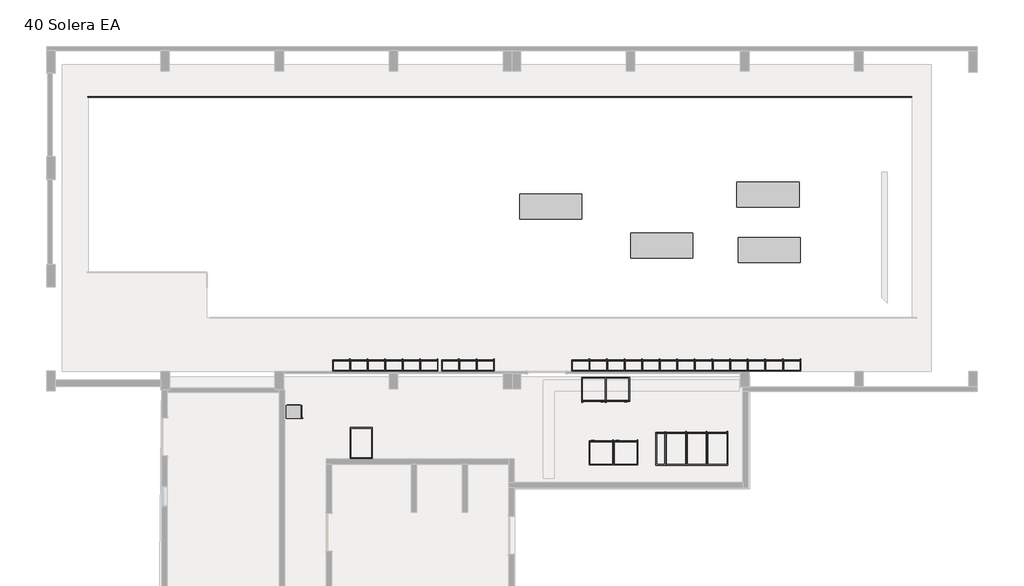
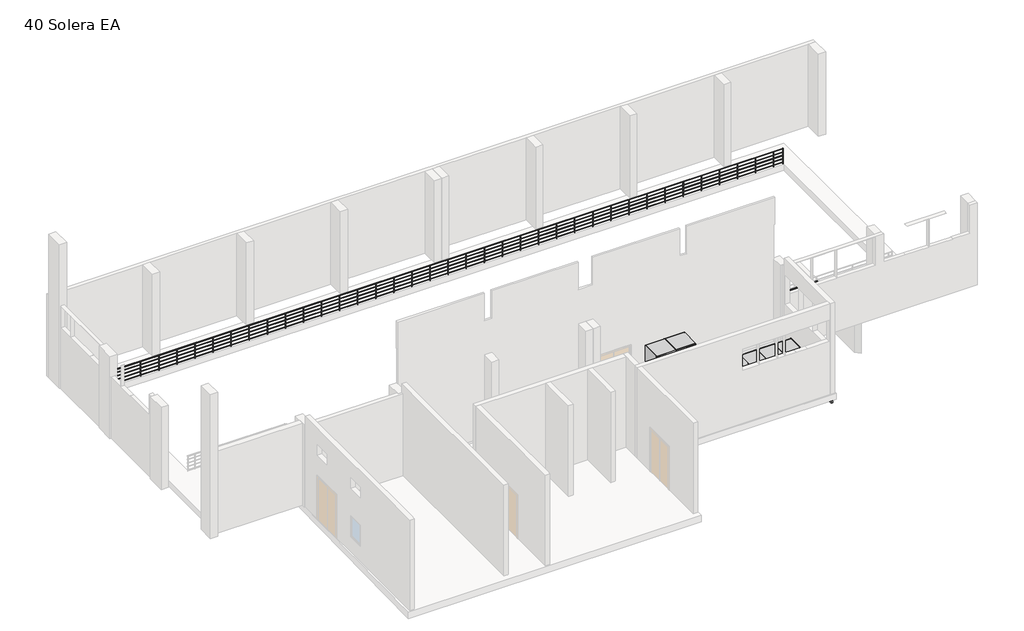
# One storey, part 3 of 3: 32 furniture elements, 5 cable carrier segments, 4 proxies, 1 railing.
"""IFC4 building model written with IfcOpenShell, lengths in millimetres."""

from ifc_helpers import new_model, si_unit, point, frame, frame_2d, origin, place, context, project, spatial, polyline, circle_curve, trimmed, segment, composite_curve, outline, extrude, faceted_brep, transform, mapped, element, save
from components import c250_motor_c250_motor_a78cca54, furniture_9596634d, furniture_800_x_450_x_2200_c90feb4c, furniture_800_x_450_x_2200_3f44f85e, furniture_800_x_450_x_2200_7879c233, furniture_800_x_450_x_2200_920462bc, furniture_800_x_450_x_2200_895e6954

model = new_model("IFC4")

# Units and contexts
model_context = context("Model", 3, world=origin())
ifc_project = project(units=[si_unit("LENGTHUNIT", "METRE", prefix="MILLI")], contexts=[model_context])

# Site, building, storey
site = spatial("IfcSite", under=ifc_project)
building = spatial("IfcBuilding", under=site)
storey = spatial("IfcBuildingStorey", under=building, Name="40 Solera EA", Elevation=-1800.0)

# Proxies
placement = place(None, origin())
c250_motor_c250_motor_shape = c250_motor_c250_motor_a78cca54(model_context)
element("IfcBuildingElementProxy", 1, Name="c250-motor : c250-motor", ObjectType="c250-motor : c250-motor", at=placement, inside=storey, context=model_context, shape_type="MappedRepresentation", body=[
    mapped(c250_motor_c250_motor_shape, transform((13629.9764081, 6765.8505422, 100.0), x_axis=(1.0, 0.0, 0.0), y_axis=(0.0, 1.0, 0.0), z_axis=(0.0, 0.0, 1.0))),
])
element("IfcBuildingElementProxy", 2, Name="c250-motor : c250-motor", ObjectType="c250-motor : c250-motor", at=placement, inside=storey, context=model_context, shape_type="MappedRepresentation", body=[
    mapped(c250_motor_c250_motor_shape, transform((13579.1365175, 9302.4243791, 100.0), x_axis=(1.0, 0.0, 0.0), y_axis=(0.0, 1.0, 0.0), z_axis=(0.0, 0.0, 1.0))),
])
element("IfcBuildingElementProxy", 3, Name="c250-motor : c250-motor", ObjectType="c250-motor : c250-motor", at=placement, inside=storey, context=model_context, shape_type="MappedRepresentation", body=[
    mapped(c250_motor_c250_motor_shape, transform((8742.1201345, 6973.4120119, 105.0), x_axis=(1.0, 0.0, 0.0), y_axis=(0.0, 1.0, 0.0), z_axis=(0.0, 0.0, 1.0))),
])
element("IfcBuildingElementProxy", 4, Name="c250-motor : c250-motor", ObjectType="c250-motor : c250-motor", at=placement, inside=storey, context=model_context, shape_type="MappedRepresentation", body=[
    mapped(c250_motor_c250_motor_shape, transform((3693.7049279, 8742.9820469, 105.0), x_axis=(1.0, 0.0, 0.0), y_axis=(0.0, 1.0, 0.0), z_axis=(0.0, 0.0, 1.0))),
])

# Cable carrier segments
element("IfcCableCarrierSegment", 5, ObjectType="Bandeja de cables de canal", at=placement, inside=storey, context=model_context, shape_type="Brep", body=[
    faceted_brep([(15654.3639889, 1343.0546627, -6700.0), (15655.6805292, 1343.0546627, -2781.7777346), (15555.6831632, 1343.7812393, -2781.7777346), (15554.3666228, 1343.7812393, -6700.0), (15558.9527582, 1793.7693611, -2781.7777346), (15557.6362178, 1793.7693611, -6700.0), (15658.9501242, 1793.0427845, -2781.7777346), (15657.6335838, 1793.0427845, -6700.0)], [[[0, 1, 2, 3]], [[3, 2, 4, 5]], [[5, 4, 6, 7]], [[7, 6, 1, 0]], [[0, 3, 5, 7]], [[1, 6, 4, 2]]]),
])
element("IfcCableCarrierSegment", 6, ObjectType="Bandeja de cables de canal", at=placement, inside=storey, context=model_context, shape_type="SweptSolid", body=[
    extrude(outline(polyline([(3091.0879722, 1793.0427845), (3087.8183776, 1343.0546627), (2987.8210172, 1343.7812393), (2991.0906118, 1793.7693611), (3091.0879722, 1793.0427845)])), frame((0.0, 0.0, -6531.7777346), z_axis=(0.0, 0.0, 1.0), x_axis=(1.0, 0.0, 0.0)), (0.0, 0.0, 1.0), 3490.0),
])
element("IfcCableCarrierSegment", 7, ObjectType="Bandeja de cables de canal", at=placement, inside=storey, context=model_context, shape_type="SweptSolid", body=[
    extrude(outline(polyline([(3091.0879722, 1793.0427845), (3087.8183776, 1343.0546627), (2987.8210172, 1343.7812393), (2991.0906118, 1793.7693611), (3091.0879722, 1793.0427845)])), frame((0.0, 0.0, -2941.7777346), z_axis=(0.0, 0.0, 1.0), x_axis=(1.0, 0.0, 0.0)), (0.0, 0.0, 1.0), 160.0),
])
element("IfcCableCarrierSegment", 8, ObjectType="Bandeja de cables de canal", at=placement, inside=storey, context=model_context, shape_type="SweptSolid", body=[
    extrude(outline(polyline([(7741.9162936, 1793.0427845), (7738.646699, 1343.0546627), (7638.6493386, 1343.7812393), (7641.9189332, 1793.7693611), (7741.9162936, 1793.0427845)])), frame((0.0, 0.0, -6800.0), z_axis=(0.0, 0.0, 1.0), x_axis=(1.0, 0.0, 0.0)), (0.0, 0.0, 1.0), 3758.2222654),
])
element("IfcCableCarrierSegment", 9, ObjectType="Bandeja de cables de canal", at=placement, inside=storey, context=model_context, shape_type="SweptSolid", body=[
    extrude(outline(polyline([(7741.9162936, 1793.0427845), (7738.646699, 1343.0546627), (7638.6493386, 1343.7812393), (7641.9189332, 1793.7693611), (7741.9162936, 1793.0427845)])), frame((0.0, 0.0, -2941.7777346), z_axis=(0.0, 0.0, 1.0), x_axis=(1.0, 0.0, 0.0)), (0.0, 0.0, 1.0), 160.0),
])

# Furniture
furniture_shape = furniture_9596634d(model_context)
element("IfcFurniture", 10, ObjectType="Armario Instalaciones : 800 x 450 x 2200 vermell", at=placement, inside=storey, context=model_context, shape_type="MappedRepresentation", body=[
    mapped(furniture_shape, transform((12218.1881312, 1793.4120119, -1800.0), x_axis=(-1.0, 0.0, 0.0), y_axis=(0.0, -1.0, 0.0), z_axis=(0.0, 0.0, 1.0))),
])
element("IfcFurniture", 11, ObjectType="Armario Instalaciones : 800 x 450 x 2200 vermell", at=placement, inside=storey, context=model_context, shape_type="MappedRepresentation", body=[
    mapped(furniture_shape, transform((13023.1881312, 1793.4120119, -1800.0), x_axis=(-1.0, 0.0, 0.0), y_axis=(0.0, -1.0, 0.0), z_axis=(0.0, 0.0, 1.0))),
])
element("IfcFurniture", 12, ObjectType="Armario Instalaciones : 800 x 450 x 2200 vermell", at=placement, inside=storey, context=model_context, shape_type="MappedRepresentation", body=[
    mapped(furniture_shape, transform((13828.1881312, 1793.4120119, -1800.0), x_axis=(-1.0, 0.0, 0.0), y_axis=(0.0, -1.0, 0.0), z_axis=(0.0, 0.0, 1.0))),
])
element("IfcFurniture", 13, ObjectType="Armario Instalaciones : 800 x 450 x 2200 vermell", at=placement, inside=storey, context=model_context, shape_type="MappedRepresentation", body=[
    mapped(furniture_shape, transform((14633.1881312, 1793.4120119, -1800.0), x_axis=(-1.0, 0.0, 0.0), y_axis=(0.0, -1.0, 0.0), z_axis=(0.0, 0.0, 1.0))),
])
element("IfcFurniture", 14, ObjectType="Armario Instalaciones : 800 x 450 x 2200", at=placement, inside=storey, context=model_context, shape_type="MappedRepresentation", body=[
    mapped(furniture_shape, transform((5013.1881312, 1793.4120119, -1800.0), x_axis=(-1.0, 0.0, 0.0), y_axis=(0.0, -1.0, 0.0), z_axis=(0.0, 0.0, 1.0))),
])
element("IfcFurniture", 15, ObjectType="Armario Instalaciones : 800 x 450 x 2200", at=placement, inside=storey, context=model_context, shape_type="MappedRepresentation", body=[
    mapped(furniture_shape, transform((5813.1881312, 1793.4120119, -1800.0), x_axis=(-1.0, 0.0, 0.0), y_axis=(0.0, -1.0, 0.0), z_axis=(0.0, 0.0, 1.0))),
])
element("IfcFurniture", 16, ObjectType="Armario Instalaciones : 800 x 450 x 2200", at=placement, inside=storey, context=model_context, shape_type="MappedRepresentation", body=[
    mapped(furniture_shape, transform((6613.1881312, 1793.4120119, -1800.0), x_axis=(-1.0, 0.0, 0.0), y_axis=(0.0, -1.0, 0.0), z_axis=(0.0, 0.0, 1.0))),
])
element("IfcFurniture", 17, ObjectType="Armario Instalaciones : 800 x 450 x 2200", at=placement, inside=storey, context=model_context, shape_type="MappedRepresentation", body=[
    mapped(furniture_shape, transform((7413.1881312, 1793.4120119, -1800.0), x_axis=(-1.0, 0.0, 0.0), y_axis=(0.0, -1.0, 0.0), z_axis=(0.0, 0.0, 1.0))),
])
element("IfcFurniture", 18, ObjectType="Armario Instalaciones : 800 x 450 x 2200", at=placement, inside=storey, context=model_context, shape_type="MappedRepresentation", body=[
    mapped(furniture_shape, transform((8213.1881312, 1793.4120119, -1800.0), x_axis=(-1.0, 0.0, 0.0), y_axis=(0.0, -1.0, 0.0), z_axis=(0.0, 0.0, 1.0))),
])
element("IfcFurniture", 19, ObjectType="Armario Instalaciones : 800 x 450 x 2200", at=placement, inside=storey, context=model_context, shape_type="MappedRepresentation", body=[
    mapped(furniture_shape, transform((9013.1881312, 1793.4120119, -1800.0), x_axis=(-1.0, 0.0, 0.0), y_axis=(0.0, -1.0, 0.0), z_axis=(0.0, 0.0, 1.0))),
])
element("IfcFurniture", 20, ObjectType="Armario Instalaciones : 800 x 450 x 2200", at=placement, inside=storey, context=model_context, shape_type="MappedRepresentation", body=[
    mapped(furniture_shape, transform((9813.1881312, 1793.4120119, -1800.0), x_axis=(-1.0, 0.0, 0.0), y_axis=(0.0, -1.0, 0.0), z_axis=(0.0, 0.0, 1.0))),
])
element("IfcFurniture", 21, ObjectType="Armario Instalaciones : 800 x 450 x 2200", at=placement, inside=storey, context=model_context, shape_type="MappedRepresentation", body=[
    mapped(furniture_shape, transform((10613.1881312, 1793.4120119, -1800.0), x_axis=(-1.0, 0.0, 0.0), y_axis=(0.0, -1.0, 0.0), z_axis=(0.0, 0.0, 1.0))),
])
element("IfcFurniture", 22, ObjectType="Armario Instalaciones : 800 x 450 x 2200", at=placement, inside=storey, context=model_context, shape_type="MappedRepresentation", body=[
    mapped(furniture_shape, transform((11418.1881312, 1793.4120119, -1800.0), x_axis=(-1.0, 0.0, 0.0), y_axis=(0.0, -1.0, 0.0), z_axis=(0.0, 0.0, 1.0))),
])
element("IfcFurniture", 23, ObjectType="Armario Instalaciones : 800 x 450 x 2200", at=placement, inside=storey, context=model_context, shape_type="MappedRepresentation", body=[
    mapped(furniture_shape, transform((-926.8118688, 1793.4120119, -1800.0), x_axis=(-1.0, 0.0, 0.0), y_axis=(0.0, -1.0, 0.0), z_axis=(0.0, 0.0, 1.0))),
])
element("IfcFurniture", 24, ObjectType="Armario Instalaciones : 800 x 450 x 2200", at=placement, inside=storey, context=model_context, shape_type="MappedRepresentation", body=[
    mapped(furniture_shape, transform((-126.8118688, 1793.4120119, -1800.0), x_axis=(-1.0, 0.0, 0.0), y_axis=(0.0, -1.0, 0.0), z_axis=(0.0, 0.0, 1.0))),
])
element("IfcFurniture", 25, ObjectType="Armario Instalaciones : 800 x 450 x 2200", at=placement, inside=storey, context=model_context, shape_type="MappedRepresentation", body=[
    mapped(furniture_shape, transform((673.1881312, 1793.4120119, -1800.0), x_axis=(-1.0, 0.0, 0.0), y_axis=(0.0, -1.0, 0.0), z_axis=(0.0, 0.0, 1.0))),
])
element("IfcFurniture", 26, ObjectType="Armario Instalaciones : 800 x 450 x 2200", at=placement, inside=storey, context=model_context, shape_type="MappedRepresentation", body=[
    mapped(furniture_shape, transform((-3491.8118688, 1793.4120119, -1800.0), x_axis=(-1.0, 0.0, 0.0), y_axis=(0.0, -1.0, 0.0), z_axis=(0.0, 0.0, 1.0))),
])
element("IfcFurniture", 27, ObjectType="Armario Instalaciones : 800 x 450 x 2200", at=placement, inside=storey, context=model_context, shape_type="MappedRepresentation", body=[
    mapped(furniture_shape, transform((-2691.8118688, 1793.4120119, -1800.0), x_axis=(-1.0, 0.0, 0.0), y_axis=(0.0, -1.0, 0.0), z_axis=(0.0, 0.0, 1.0))),
])
element("IfcFurniture", 28, ObjectType="Armario Instalaciones : 800 x 450 x 2200", at=placement, inside=storey, context=model_context, shape_type="MappedRepresentation", body=[
    mapped(furniture_shape, transform((-1891.8118688, 1793.4120119, -1800.0), x_axis=(-1.0, 0.0, 0.0), y_axis=(0.0, -1.0, 0.0), z_axis=(0.0, 0.0, 1.0))),
])
element("IfcFurniture", 29, ObjectType="Armario Instalaciones : 800 x 450 x 2200", at=placement, inside=storey, context=model_context, shape_type="MappedRepresentation", body=[
    mapped(furniture_shape, transform((-5891.8118688, 1793.4120119, -1800.0), x_axis=(-1.0, 0.0, 0.0), y_axis=(0.0, -1.0, 0.0), z_axis=(0.0, 0.0, 1.0))),
])
element("IfcFurniture", 30, ObjectType="Armario Instalaciones : 800 x 450 x 2200", at=placement, inside=storey, context=model_context, shape_type="MappedRepresentation", body=[
    mapped(furniture_shape, transform((-5091.8118688, 1793.4120119, -1800.0), x_axis=(-1.0, 0.0, 0.0), y_axis=(0.0, -1.0, 0.0), z_axis=(0.0, 0.0, 1.0))),
])
element("IfcFurniture", 31, ObjectType="Armario Instalaciones : 800 x 450 x 2200", at=placement, inside=storey, context=model_context, shape_type="MappedRepresentation", body=[
    mapped(furniture_shape, transform((-4291.8118688, 1793.4120119, -1800.0), x_axis=(-1.0, 0.0, 0.0), y_axis=(0.0, -1.0, 0.0), z_axis=(0.0, 0.0, 1.0))),
])
furniture_800_x_450_x_2200_shape = furniture_800_x_450_x_2200_c90feb4c(model_context)
element("IfcFurniture", 32, ObjectType="Arrencador MT Solcon : 800 x 450 x 2200", at=placement, inside=storey, context=model_context, shape_type="MappedRepresentation", body=[
    mapped(furniture_800_x_450_x_2200_shape, transform((6520.0940852, -113.0691647, -1800.0), x_axis=(1.0, 0.0, 0.0), y_axis=(0.0, 1.0, 0.0), z_axis=(0.0, 0.0, 1.0))),
])
element("IfcFurniture", 33, ObjectType="Arrencador MT Solcon : 800 x 450 x 2200", at=placement, inside=storey, context=model_context, shape_type="MappedRepresentation", body=[
    mapped(furniture_800_x_450_x_2200_shape, transform((5448.7956532, -113.0691647, -1800.0), x_axis=(1.0, 0.0, 0.0), y_axis=(0.0, 1.0, 0.0), z_axis=(0.0, 0.0, 1.0))),
])
element("IfcFurniture", 34, ObjectType="Arrencador MT Solcon : 800 x 450 x 2200", at=placement, inside=storey, context=model_context, shape_type="MappedRepresentation", body=[
    mapped(furniture_800_x_450_x_2200_shape, transform((6096.7306695, -1892.5518891, -1800.0), x_axis=(-1.0, 0.0, 0.0), y_axis=(0.0, -1.0, 0.0), z_axis=(0.0, 0.0, 1.0))),
])
element("IfcFurniture", 35, ObjectType="Arrencador MT Solcon : 800 x 450 x 2200", at=placement, inside=storey, context=model_context, shape_type="MappedRepresentation", body=[
    mapped(furniture_800_x_450_x_2200_shape, transform((7214.8161663, -1892.5518891, -1800.0), x_axis=(-1.0, 0.0, 0.0), y_axis=(0.0, -1.0, 0.0), z_axis=(0.0, 0.0, 1.0))),
])
furniture_800_x_450_x_2200_2_shape = furniture_800_x_450_x_2200_3f44f85e(model_context)
element("IfcFurniture", 36, ObjectType="Bateria_condensaors C250 : 800 x 450 x 2200", at=placement, inside=storey, context=model_context, shape_type="MappedRepresentation", body=[
    mapped(furniture_800_x_450_x_2200_2_shape, transform((9417.1053929, -1511.7020724, -1800.0), x_axis=(-1.0, 0.0, 0.0), y_axis=(0.0, -1.0, 0.0), z_axis=(0.0, 0.0, 1.0))),
])
element("IfcFurniture", 37, ObjectType="Bateria_condensaors C250 : 800 x 450 x 2200", at=placement, inside=storey, context=model_context, shape_type="MappedRepresentation", body=[
    mapped(furniture_800_x_450_x_2200_2_shape, transform((10357.1053929, -1511.7020724, -1800.0), x_axis=(-1.0, 0.0, 0.0), y_axis=(0.0, -1.0, 0.0), z_axis=(0.0, 0.0, 1.0))),
])
element("IfcFurniture", 38, ObjectType="Bateria_condensaors C250 : 800 x 450 x 2200", at=placement, inside=storey, context=model_context, shape_type="MappedRepresentation", body=[
    mapped(furniture_800_x_450_x_2200_2_shape, transform((11297.1053929, -1511.7020724, -1800.0), x_axis=(-1.0, 0.0, 0.0), y_axis=(0.0, -1.0, 0.0), z_axis=(0.0, 0.0, 1.0))),
])
furniture_800_x_450_x_2200_3_shape = furniture_800_x_450_x_2200_7879c233(model_context)
element("IfcFurniture", 39, ObjectType="Bateria_condensaors C250_controlador : 800 x 450 x 2200", at=placement, inside=storey, context=model_context, shape_type="MappedRepresentation", body=[
    mapped(furniture_800_x_450_x_2200_3_shape, transform((8473.1053929, -1515.7381714, -1800.0), x_axis=(-1.0, 0.0, 0.0), y_axis=(0.0, -1.0, 0.0), z_axis=(0.0, 0.0, 1.0))),
])
furniture_800_x_450_x_2200_4_shape = furniture_800_x_450_x_2200_920462bc(model_context)
element("IfcFurniture", 40, ObjectType="Quadre bateries 48V : 800 x 450 x 2200", at=placement, inside=storey, context=model_context, shape_type="MappedRepresentation", body=[
    mapped(furniture_800_x_450_x_2200_4_shape, transform((-7708.5311914, -484.3336245, -1800.0), x_axis=(0.0, 1.0, 0.0), y_axis=(-1.0, 0.0, 0.0), z_axis=(0.0, 0.0, 1.0))),
])
furniture_800_x_450_x_2200_5_shape = furniture_800_x_450_x_2200_895e6954(model_context)
element("IfcFurniture", 41, ObjectType="PAT C250 : 800 x 450 x 2200", at=placement, inside=storey, context=model_context, shape_type="MappedRepresentation", body=[
    mapped(furniture_800_x_450_x_2200_5_shape, transform((-5103.5311914, -2719.0986286, -1520.0), x_axis=(1.0, 0.0, 0.0), y_axis=(0.0, 1.0, 0.0), z_axis=(0.0, 0.0, 1.0))),
])

# Railing
element("IfcRailing", 42, ObjectType="Tubería 900 mm", at=placement, inside=storey, context=model_context, shape_type="SweptSolid", body=[
    extrude(outline(composite_curve([segment(trimmed(circle_curve(frame_2d((13774.9279887, -920.0)), 20.0), [point((13754.9279887, -920.0))], [point((13794.9279887, -920.0))], False, "CARTESIAN"), True, "CONTINUOUS"), segment(trimmed(circle_curve(frame_2d((13774.9279887, -920.0)), 20.0), [point((13794.9279887, -920.0))], [point((13754.9279887, -920.0))], False, "CARTESIAN"), True, "CONTINUOUS")], self_intersect=False)), frame((-17448.0489193, 0.0, 0.0), z_axis=(1.0, 0.0, 0.0), x_axis=(0.0, 1.0, 0.0)), (0.0, 0.0, 1.0), 37528.3052475),
    extrude(outline(composite_curve([segment(trimmed(circle_curve(frame_2d((13774.9279887, -1115.0)), 15.0), [point((13789.9279887, -1115.0))], [point((13759.9279887, -1115.0))], False, "CARTESIAN"), True, "CONTINUOUS"), segment(trimmed(circle_curve(frame_2d((13774.9279887, -1115.0)), 15.0), [point((13759.9279887, -1115.0))], [point((13789.9279887, -1115.0))], False, "CARTESIAN"), True, "CONTINUOUS")], self_intersect=False)), frame((-17448.0489193, 0.0, 0.0), z_axis=(1.0, 0.0, 0.0), x_axis=(0.0, 1.0, 0.0)), (0.0, 0.0, 1.0), 37528.3052475),
    extrude(outline(composite_curve([segment(trimmed(circle_curve(frame_2d((13774.9279887, -1315.0)), 15.0), [point((13789.9279887, -1315.0))], [point((13759.9279887, -1315.0))], False, "CARTESIAN"), True, "CONTINUOUS"), segment(trimmed(circle_curve(frame_2d((13774.9279887, -1315.0)), 15.0), [point((13759.9279887, -1315.0))], [point((13789.9279887, -1315.0))], False, "CARTESIAN"), True, "CONTINUOUS")], self_intersect=False)), frame((-17448.0489193, 0.0, 0.0), z_axis=(1.0, 0.0, 0.0), x_axis=(0.0, 1.0, 0.0)), (0.0, 0.0, 1.0), 37528.3052475),
    extrude(outline(composite_curve([segment(trimmed(circle_curve(frame_2d((13774.9279887, -1515.0)), 15.0), [point((13789.9279887, -1515.0))], [point((13759.9279887, -1515.0))], False, "CARTESIAN"), True, "CONTINUOUS"), segment(trimmed(circle_curve(frame_2d((13774.9279887, -1515.0)), 15.0), [point((13759.9279887, -1515.0))], [point((13789.9279887, -1515.0))], False, "CARTESIAN"), True, "CONTINUOUS")], self_intersect=False)), frame((-17448.0489193, 0.0, 0.0), z_axis=(1.0, 0.0, 0.0), x_axis=(0.0, 1.0, 0.0)), (0.0, 0.0, 1.0), 37528.3052475),
    extrude(outline(composite_curve([segment(trimmed(circle_curve(frame_2d((13774.9279887, -1715.0)), 15.0), [point((13789.9279887, -1715.0))], [point((13759.9279887, -1715.0))], False, "CARTESIAN"), True, "CONTINUOUS"), segment(trimmed(circle_curve(frame_2d((13774.9279887, -1715.0)), 15.0), [point((13759.9279887, -1715.0))], [point((13789.9279887, -1715.0))], False, "CARTESIAN"), True, "CONTINUOUS")], self_intersect=False)), frame((-17448.0489193, 0.0, 0.0), z_axis=(1.0, 0.0, 0.0), x_axis=(0.0, 1.0, 0.0)), (0.0, 0.0, 1.0), 37528.3052475),
    extrude(outline(composite_curve([segment(trimmed(circle_curve(frame_2d((19551.9510807, 13774.9279887)), 12.5), [point((19551.9510807, 13787.4279887))], [point((19551.9510807, 13762.4279887))], False, "CARTESIAN"), True, "CONTINUOUS"), segment(trimmed(circle_curve(frame_2d((19551.9510807, 13774.9279887)), 12.5), [point((19551.9510807, 13762.4279887))], [point((19551.9510807, 13787.4279887))], False, "CARTESIAN"), True, "CONTINUOUS")], self_intersect=False)), frame((0.0, 0.0, -1800.0), z_axis=(0.0, 0.0, 1.0), x_axis=(1.0, 0.0, 0.0)), (0.0, 0.0, 1.0), 860.0),
    extrude(outline(composite_curve([segment(trimmed(circle_curve(frame_2d((18551.9510807, 13774.9279887)), 12.5), [point((18551.9510807, 13787.4279887))], [point((18551.9510807, 13762.4279887))], False, "CARTESIAN"), True, "CONTINUOUS"), segment(trimmed(circle_curve(frame_2d((18551.9510807, 13774.9279887)), 12.5), [point((18551.9510807, 13762.4279887))], [point((18551.9510807, 13787.4279887))], False, "CARTESIAN"), True, "CONTINUOUS")], self_intersect=False)), frame((0.0, 0.0, -1800.0), z_axis=(0.0, 0.0, 1.0), x_axis=(1.0, 0.0, 0.0)), (0.0, 0.0, 1.0), 860.0),
    extrude(outline(composite_curve([segment(trimmed(circle_curve(frame_2d((17551.9510807, 13774.9279887)), 12.5), [point((17551.9510807, 13787.4279887))], [point((17551.9510807, 13762.4279887))], False, "CARTESIAN"), True, "CONTINUOUS"), segment(trimmed(circle_curve(frame_2d((17551.9510807, 13774.9279887)), 12.5), [point((17551.9510807, 13762.4279887))], [point((17551.9510807, 13787.4279887))], False, "CARTESIAN"), True, "CONTINUOUS")], self_intersect=False)), frame((0.0, 0.0, -1800.0), z_axis=(0.0, 0.0, 1.0), x_axis=(1.0, 0.0, 0.0)), (0.0, 0.0, 1.0), 860.0),
    extrude(outline(composite_curve([segment(trimmed(circle_curve(frame_2d((16551.9510807, 13774.9279887)), 12.5), [point((16551.9510807, 13787.4279887))], [point((16551.9510807, 13762.4279887))], False, "CARTESIAN"), True, "CONTINUOUS"), segment(trimmed(circle_curve(frame_2d((16551.9510807, 13774.9279887)), 12.5), [point((16551.9510807, 13762.4279887))], [point((16551.9510807, 13787.4279887))], False, "CARTESIAN"), True, "CONTINUOUS")], self_intersect=False)), frame((0.0, 0.0, -1800.0), z_axis=(0.0, 0.0, 1.0), x_axis=(1.0, 0.0, 0.0)), (0.0, 0.0, 1.0), 860.0),
    extrude(outline(composite_curve([segment(trimmed(circle_curve(frame_2d((15551.9510807, 13774.9279887)), 12.5), [point((15551.9510807, 13787.4279887))], [point((15551.9510807, 13762.4279887))], False, "CARTESIAN"), True, "CONTINUOUS"), segment(trimmed(circle_curve(frame_2d((15551.9510807, 13774.9279887)), 12.5), [point((15551.9510807, 13762.4279887))], [point((15551.9510807, 13787.4279887))], False, "CARTESIAN"), True, "CONTINUOUS")], self_intersect=False)), frame((0.0, 0.0, -1800.0), z_axis=(0.0, 0.0, 1.0), x_axis=(1.0, 0.0, 0.0)), (0.0, 0.0, 1.0), 860.0),
    extrude(outline(composite_curve([segment(trimmed(circle_curve(frame_2d((14551.9510807, 13774.9279887)), 12.5), [point((14551.9510807, 13787.4279887))], [point((14551.9510807, 13762.4279887))], False, "CARTESIAN"), True, "CONTINUOUS"), segment(trimmed(circle_curve(frame_2d((14551.9510807, 13774.9279887)), 12.5), [point((14551.9510807, 13762.4279887))], [point((14551.9510807, 13787.4279887))], False, "CARTESIAN"), True, "CONTINUOUS")], self_intersect=False)), frame((0.0, 0.0, -1800.0), z_axis=(0.0, 0.0, 1.0), x_axis=(1.0, 0.0, 0.0)), (0.0, 0.0, 1.0), 860.0),
    extrude(outline(composite_curve([segment(trimmed(circle_curve(frame_2d((13551.9510807, 13774.9279887)), 12.5), [point((13551.9510807, 13787.4279887))], [point((13551.9510807, 13762.4279887))], False, "CARTESIAN"), True, "CONTINUOUS"), segment(trimmed(circle_curve(frame_2d((13551.9510807, 13774.9279887)), 12.5), [point((13551.9510807, 13762.4279887))], [point((13551.9510807, 13787.4279887))], False, "CARTESIAN"), True, "CONTINUOUS")], self_intersect=False)), frame((0.0, 0.0, -1800.0), z_axis=(0.0, 0.0, 1.0), x_axis=(1.0, 0.0, 0.0)), (0.0, 0.0, 1.0), 860.0),
    extrude(outline(composite_curve([segment(trimmed(circle_curve(frame_2d((12551.9510807, 13774.9279887)), 12.5), [point((12551.9510807, 13787.4279887))], [point((12551.9510807, 13762.4279887))], False, "CARTESIAN"), True, "CONTINUOUS"), segment(trimmed(circle_curve(frame_2d((12551.9510807, 13774.9279887)), 12.5), [point((12551.9510807, 13762.4279887))], [point((12551.9510807, 13787.4279887))], False, "CARTESIAN"), True, "CONTINUOUS")], self_intersect=False)), frame((0.0, 0.0, -1800.0), z_axis=(0.0, 0.0, 1.0), x_axis=(1.0, 0.0, 0.0)), (0.0, 0.0, 1.0), 860.0),
    extrude(outline(composite_curve([segment(trimmed(circle_curve(frame_2d((11551.9510807, 13774.9279887)), 12.5), [point((11551.9510807, 13787.4279887))], [point((11551.9510807, 13762.4279887))], False, "CARTESIAN"), True, "CONTINUOUS"), segment(trimmed(circle_curve(frame_2d((11551.9510807, 13774.9279887)), 12.5), [point((11551.9510807, 13762.4279887))], [point((11551.9510807, 13787.4279887))], False, "CARTESIAN"), True, "CONTINUOUS")], self_intersect=False)), frame((0.0, 0.0, -1800.0), z_axis=(0.0, 0.0, 1.0), x_axis=(1.0, 0.0, 0.0)), (0.0, 0.0, 1.0), 860.0),
    extrude(outline(composite_curve([segment(trimmed(circle_curve(frame_2d((10551.9510807, 13774.9279887)), 12.5), [point((10551.9510807, 13787.4279887))], [point((10551.9510807, 13762.4279887))], False, "CARTESIAN"), True, "CONTINUOUS"), segment(trimmed(circle_curve(frame_2d((10551.9510807, 13774.9279887)), 12.5), [point((10551.9510807, 13762.4279887))], [point((10551.9510807, 13787.4279887))], False, "CARTESIAN"), True, "CONTINUOUS")], self_intersect=False)), frame((0.0, 0.0, -1800.0), z_axis=(0.0, 0.0, 1.0), x_axis=(1.0, 0.0, 0.0)), (0.0, 0.0, 1.0), 860.0),
    extrude(outline(composite_curve([segment(trimmed(circle_curve(frame_2d((9551.9510807, 13774.9279887)), 12.5), [point((9551.9510807, 13787.4279887))], [point((9551.9510807, 13762.4279887))], False, "CARTESIAN"), True, "CONTINUOUS"), segment(trimmed(circle_curve(frame_2d((9551.9510807, 13774.9279887)), 12.5), [point((9551.9510807, 13762.4279887))], [point((9551.9510807, 13787.4279887))], False, "CARTESIAN"), True, "CONTINUOUS")], self_intersect=False)), frame((0.0, 0.0, -1800.0), z_axis=(0.0, 0.0, 1.0), x_axis=(1.0, 0.0, 0.0)), (0.0, 0.0, 1.0), 860.0),
    extrude(outline(composite_curve([segment(trimmed(circle_curve(frame_2d((8551.9510807, 13774.9279887)), 12.5), [point((8551.9510807, 13787.4279887))], [point((8551.9510807, 13762.4279887))], False, "CARTESIAN"), True, "CONTINUOUS"), segment(trimmed(circle_curve(frame_2d((8551.9510807, 13774.9279887)), 12.5), [point((8551.9510807, 13762.4279887))], [point((8551.9510807, 13787.4279887))], False, "CARTESIAN"), True, "CONTINUOUS")], self_intersect=False)), frame((0.0, 0.0, -1800.0), z_axis=(0.0, 0.0, 1.0), x_axis=(1.0, 0.0, 0.0)), (0.0, 0.0, 1.0), 860.0),
    extrude(outline(composite_curve([segment(trimmed(circle_curve(frame_2d((7551.9510807, 13774.9279887)), 12.5), [point((7551.9510807, 13787.4279887))], [point((7551.9510807, 13762.4279887))], False, "CARTESIAN"), True, "CONTINUOUS"), segment(trimmed(circle_curve(frame_2d((7551.9510807, 13774.9279887)), 12.5), [point((7551.9510807, 13762.4279887))], [point((7551.9510807, 13787.4279887))], False, "CARTESIAN"), True, "CONTINUOUS")], self_intersect=False)), frame((0.0, 0.0, -1800.0), z_axis=(0.0, 0.0, 1.0), x_axis=(1.0, 0.0, 0.0)), (0.0, 0.0, 1.0), 860.0),
    extrude(outline(composite_curve([segment(trimmed(circle_curve(frame_2d((6551.9510807, 13774.9279887)), 12.5), [point((6551.9510807, 13787.4279887))], [point((6551.9510807, 13762.4279887))], False, "CARTESIAN"), True, "CONTINUOUS"), segment(trimmed(circle_curve(frame_2d((6551.9510807, 13774.9279887)), 12.5), [point((6551.9510807, 13762.4279887))], [point((6551.9510807, 13787.4279887))], False, "CARTESIAN"), True, "CONTINUOUS")], self_intersect=False)), frame((0.0, 0.0, -1800.0), z_axis=(0.0, 0.0, 1.0), x_axis=(1.0, 0.0, 0.0)), (0.0, 0.0, 1.0), 860.0),
    extrude(outline(composite_curve([segment(trimmed(circle_curve(frame_2d((5551.9510807, 13774.9279887)), 12.5), [point((5551.9510807, 13787.4279887))], [point((5551.9510807, 13762.4279887))], False, "CARTESIAN"), True, "CONTINUOUS"), segment(trimmed(circle_curve(frame_2d((5551.9510807, 13774.9279887)), 12.5), [point((5551.9510807, 13762.4279887))], [point((5551.9510807, 13787.4279887))], False, "CARTESIAN"), True, "CONTINUOUS")], self_intersect=False)), frame((0.0, 0.0, -1800.0), z_axis=(0.0, 0.0, 1.0), x_axis=(1.0, 0.0, 0.0)), (0.0, 0.0, 1.0), 860.0),
    extrude(outline(composite_curve([segment(trimmed(circle_curve(frame_2d((4551.9510807, 13774.9279887)), 12.5), [point((4551.9510807, 13787.4279887))], [point((4551.9510807, 13762.4279887))], False, "CARTESIAN"), True, "CONTINUOUS"), segment(trimmed(circle_curve(frame_2d((4551.9510807, 13774.9279887)), 12.5), [point((4551.9510807, 13762.4279887))], [point((4551.9510807, 13787.4279887))], False, "CARTESIAN"), True, "CONTINUOUS")], self_intersect=False)), frame((0.0, 0.0, -1800.0), z_axis=(0.0, 0.0, 1.0), x_axis=(1.0, 0.0, 0.0)), (0.0, 0.0, 1.0), 860.0),
    extrude(outline(composite_curve([segment(trimmed(circle_curve(frame_2d((3551.9510807, 13774.9279887)), 12.5), [point((3551.9510807, 13787.4279887))], [point((3551.9510807, 13762.4279887))], False, "CARTESIAN"), True, "CONTINUOUS"), segment(trimmed(circle_curve(frame_2d((3551.9510807, 13774.9279887)), 12.5), [point((3551.9510807, 13762.4279887))], [point((3551.9510807, 13787.4279887))], False, "CARTESIAN"), True, "CONTINUOUS")], self_intersect=False)), frame((0.0, 0.0, -1800.0), z_axis=(0.0, 0.0, 1.0), x_axis=(1.0, 0.0, 0.0)), (0.0, 0.0, 1.0), 860.0),
    extrude(outline(composite_curve([segment(trimmed(circle_curve(frame_2d((2551.9510807, 13774.9279887)), 12.5), [point((2551.9510807, 13787.4279887))], [point((2551.9510807, 13762.4279887))], False, "CARTESIAN"), True, "CONTINUOUS"), segment(trimmed(circle_curve(frame_2d((2551.9510807, 13774.9279887)), 12.5), [point((2551.9510807, 13762.4279887))], [point((2551.9510807, 13787.4279887))], False, "CARTESIAN"), True, "CONTINUOUS")], self_intersect=False)), frame((0.0, 0.0, -1800.0), z_axis=(0.0, 0.0, 1.0), x_axis=(1.0, 0.0, 0.0)), (0.0, 0.0, 1.0), 860.0),
    extrude(outline(composite_curve([segment(trimmed(circle_curve(frame_2d((1551.9510807, 13774.9279887)), 12.5), [point((1551.9510807, 13787.4279887))], [point((1551.9510807, 13762.4279887))], False, "CARTESIAN"), True, "CONTINUOUS"), segment(trimmed(circle_curve(frame_2d((1551.9510807, 13774.9279887)), 12.5), [point((1551.9510807, 13762.4279887))], [point((1551.9510807, 13787.4279887))], False, "CARTESIAN"), True, "CONTINUOUS")], self_intersect=False)), frame((0.0, 0.0, -1800.0), z_axis=(0.0, 0.0, 1.0), x_axis=(1.0, 0.0, 0.0)), (0.0, 0.0, 1.0), 860.0),
    extrude(outline(composite_curve([segment(trimmed(circle_curve(frame_2d((551.9510807, 13774.9279887)), 12.5), [point((551.9510807, 13787.4279887))], [point((551.9510807, 13762.4279887))], False, "CARTESIAN"), True, "CONTINUOUS"), segment(trimmed(circle_curve(frame_2d((551.9510807, 13774.9279887)), 12.5), [point((551.9510807, 13762.4279887))], [point((551.9510807, 13787.4279887))], False, "CARTESIAN"), True, "CONTINUOUS")], self_intersect=False)), frame((0.0, 0.0, -1800.0), z_axis=(0.0, 0.0, 1.0), x_axis=(1.0, 0.0, 0.0)), (0.0, 0.0, 1.0), 860.0),
    extrude(outline(composite_curve([segment(trimmed(circle_curve(frame_2d((-448.0489193, 13774.9279887)), 12.5), [point((-448.0489193, 13787.4279887))], [point((-448.0489193, 13762.4279887))], False, "CARTESIAN"), True, "CONTINUOUS"), segment(trimmed(circle_curve(frame_2d((-448.0489193, 13774.9279887)), 12.5), [point((-448.0489193, 13762.4279887))], [point((-448.0489193, 13787.4279887))], False, "CARTESIAN"), True, "CONTINUOUS")], self_intersect=False)), frame((0.0, 0.0, -1800.0), z_axis=(0.0, 0.0, 1.0), x_axis=(1.0, 0.0, 0.0)), (0.0, 0.0, 1.0), 860.0),
    extrude(outline(composite_curve([segment(trimmed(circle_curve(frame_2d((-1448.0489193, 13774.9279887)), 12.5), [point((-1448.0489193, 13787.4279887))], [point((-1448.0489193, 13762.4279887))], False, "CARTESIAN"), True, "CONTINUOUS"), segment(trimmed(circle_curve(frame_2d((-1448.0489193, 13774.9279887)), 12.5), [point((-1448.0489193, 13762.4279887))], [point((-1448.0489193, 13787.4279887))], False, "CARTESIAN"), True, "CONTINUOUS")], self_intersect=False)), frame((0.0, 0.0, -1800.0), z_axis=(0.0, 0.0, 1.0), x_axis=(1.0, 0.0, 0.0)), (0.0, 0.0, 1.0), 860.0),
    extrude(outline(composite_curve([segment(trimmed(circle_curve(frame_2d((-2448.0489193, 13774.9279887)), 12.5), [point((-2448.0489193, 13787.4279887))], [point((-2448.0489193, 13762.4279887))], False, "CARTESIAN"), True, "CONTINUOUS"), segment(trimmed(circle_curve(frame_2d((-2448.0489193, 13774.9279887)), 12.5), [point((-2448.0489193, 13762.4279887))], [point((-2448.0489193, 13787.4279887))], False, "CARTESIAN"), True, "CONTINUOUS")], self_intersect=False)), frame((0.0, 0.0, -1800.0), z_axis=(0.0, 0.0, 1.0), x_axis=(1.0, 0.0, 0.0)), (0.0, 0.0, 1.0), 860.0),
    extrude(outline(composite_curve([segment(trimmed(circle_curve(frame_2d((-3448.0489193, 13774.9279887)), 12.5), [point((-3448.0489193, 13787.4279887))], [point((-3448.0489193, 13762.4279887))], False, "CARTESIAN"), True, "CONTINUOUS"), segment(trimmed(circle_curve(frame_2d((-3448.0489193, 13774.9279887)), 12.5), [point((-3448.0489193, 13762.4279887))], [point((-3448.0489193, 13787.4279887))], False, "CARTESIAN"), True, "CONTINUOUS")], self_intersect=False)), frame((0.0, 0.0, -1800.0), z_axis=(0.0, 0.0, 1.0), x_axis=(1.0, 0.0, 0.0)), (0.0, 0.0, 1.0), 860.0),
    extrude(outline(composite_curve([segment(trimmed(circle_curve(frame_2d((-4448.0489193, 13774.9279887)), 12.5), [point((-4448.0489193, 13787.4279887))], [point((-4448.0489193, 13762.4279887))], False, "CARTESIAN"), True, "CONTINUOUS"), segment(trimmed(circle_curve(frame_2d((-4448.0489193, 13774.9279887)), 12.5), [point((-4448.0489193, 13762.4279887))], [point((-4448.0489193, 13787.4279887))], False, "CARTESIAN"), True, "CONTINUOUS")], self_intersect=False)), frame((0.0, 0.0, -1800.0), z_axis=(0.0, 0.0, 1.0), x_axis=(1.0, 0.0, 0.0)), (0.0, 0.0, 1.0), 860.0),
    extrude(outline(composite_curve([segment(trimmed(circle_curve(frame_2d((-5448.0489193, 13774.9279887)), 12.5), [point((-5448.0489193, 13787.4279887))], [point((-5448.0489193, 13762.4279887))], False, "CARTESIAN"), True, "CONTINUOUS"), segment(trimmed(circle_curve(frame_2d((-5448.0489193, 13774.9279887)), 12.5), [point((-5448.0489193, 13762.4279887))], [point((-5448.0489193, 13787.4279887))], False, "CARTESIAN"), True, "CONTINUOUS")], self_intersect=False)), frame((0.0, 0.0, -1800.0), z_axis=(0.0, 0.0, 1.0), x_axis=(1.0, 0.0, 0.0)), (0.0, 0.0, 1.0), 860.0),
    extrude(outline(composite_curve([segment(trimmed(circle_curve(frame_2d((-6448.0489193, 13774.9279887)), 12.5), [point((-6448.0489193, 13787.4279887))], [point((-6448.0489193, 13762.4279887))], False, "CARTESIAN"), True, "CONTINUOUS"), segment(trimmed(circle_curve(frame_2d((-6448.0489193, 13774.9279887)), 12.5), [point((-6448.0489193, 13762.4279887))], [point((-6448.0489193, 13787.4279887))], False, "CARTESIAN"), True, "CONTINUOUS")], self_intersect=False)), frame((0.0, 0.0, -1800.0), z_axis=(0.0, 0.0, 1.0), x_axis=(1.0, 0.0, 0.0)), (0.0, 0.0, 1.0), 860.0),
    extrude(outline(composite_curve([segment(trimmed(circle_curve(frame_2d((-7448.0489193, 13774.9279887)), 12.5), [point((-7448.0489193, 13787.4279887))], [point((-7448.0489193, 13762.4279887))], False, "CARTESIAN"), True, "CONTINUOUS"), segment(trimmed(circle_curve(frame_2d((-7448.0489193, 13774.9279887)), 12.5), [point((-7448.0489193, 13762.4279887))], [point((-7448.0489193, 13787.4279887))], False, "CARTESIAN"), True, "CONTINUOUS")], self_intersect=False)), frame((0.0, 0.0, -1800.0), z_axis=(0.0, 0.0, 1.0), x_axis=(1.0, 0.0, 0.0)), (0.0, 0.0, 1.0), 860.0),
    extrude(outline(composite_curve([segment(trimmed(circle_curve(frame_2d((-8448.0489193, 13774.9279887)), 12.5), [point((-8448.0489193, 13787.4279887))], [point((-8448.0489193, 13762.4279887))], False, "CARTESIAN"), True, "CONTINUOUS"), segment(trimmed(circle_curve(frame_2d((-8448.0489193, 13774.9279887)), 12.5), [point((-8448.0489193, 13762.4279887))], [point((-8448.0489193, 13787.4279887))], False, "CARTESIAN"), True, "CONTINUOUS")], self_intersect=False)), frame((0.0, 0.0, -1800.0), z_axis=(0.0, 0.0, 1.0), x_axis=(1.0, 0.0, 0.0)), (0.0, 0.0, 1.0), 860.0),
    extrude(outline(composite_curve([segment(trimmed(circle_curve(frame_2d((-9448.0489193, 13774.9279887)), 12.5), [point((-9448.0489193, 13787.4279887))], [point((-9448.0489193, 13762.4279887))], False, "CARTESIAN"), True, "CONTINUOUS"), segment(trimmed(circle_curve(frame_2d((-9448.0489193, 13774.9279887)), 12.5), [point((-9448.0489193, 13762.4279887))], [point((-9448.0489193, 13787.4279887))], False, "CARTESIAN"), True, "CONTINUOUS")], self_intersect=False)), frame((0.0, 0.0, -1800.0), z_axis=(0.0, 0.0, 1.0), x_axis=(1.0, 0.0, 0.0)), (0.0, 0.0, 1.0), 860.0),
    extrude(outline(composite_curve([segment(trimmed(circle_curve(frame_2d((-10448.0489193, 13774.9279887)), 12.5), [point((-10448.0489193, 13787.4279887))], [point((-10448.0489193, 13762.4279887))], False, "CARTESIAN"), True, "CONTINUOUS"), segment(trimmed(circle_curve(frame_2d((-10448.0489193, 13774.9279887)), 12.5), [point((-10448.0489193, 13762.4279887))], [point((-10448.0489193, 13787.4279887))], False, "CARTESIAN"), True, "CONTINUOUS")], self_intersect=False)), frame((0.0, 0.0, -1800.0), z_axis=(0.0, 0.0, 1.0), x_axis=(1.0, 0.0, 0.0)), (0.0, 0.0, 1.0), 860.0),
    extrude(outline(composite_curve([segment(trimmed(circle_curve(frame_2d((-11448.0489193, 13774.9279887)), 12.5), [point((-11448.0489193, 13787.4279887))], [point((-11448.0489193, 13762.4279887))], False, "CARTESIAN"), True, "CONTINUOUS"), segment(trimmed(circle_curve(frame_2d((-11448.0489193, 13774.9279887)), 12.5), [point((-11448.0489193, 13762.4279887))], [point((-11448.0489193, 13787.4279887))], False, "CARTESIAN"), True, "CONTINUOUS")], self_intersect=False)), frame((0.0, 0.0, -1800.0), z_axis=(0.0, 0.0, 1.0), x_axis=(1.0, 0.0, 0.0)), (0.0, 0.0, 1.0), 860.0),
    extrude(outline(composite_curve([segment(trimmed(circle_curve(frame_2d((-12448.0489193, 13774.9279887)), 12.5), [point((-12448.0489193, 13787.4279887))], [point((-12448.0489193, 13762.4279887))], False, "CARTESIAN"), True, "CONTINUOUS"), segment(trimmed(circle_curve(frame_2d((-12448.0489193, 13774.9279887)), 12.5), [point((-12448.0489193, 13762.4279887))], [point((-12448.0489193, 13787.4279887))], False, "CARTESIAN"), True, "CONTINUOUS")], self_intersect=False)), frame((0.0, 0.0, -1800.0), z_axis=(0.0, 0.0, 1.0), x_axis=(1.0, 0.0, 0.0)), (0.0, 0.0, 1.0), 860.0),
    extrude(outline(composite_curve([segment(trimmed(circle_curve(frame_2d((-13448.0489193, 13774.9279887)), 12.5), [point((-13448.0489193, 13787.4279887))], [point((-13448.0489193, 13762.4279887))], False, "CARTESIAN"), True, "CONTINUOUS"), segment(trimmed(circle_curve(frame_2d((-13448.0489193, 13774.9279887)), 12.5), [point((-13448.0489193, 13762.4279887))], [point((-13448.0489193, 13787.4279887))], False, "CARTESIAN"), True, "CONTINUOUS")], self_intersect=False)), frame((0.0, 0.0, -1800.0), z_axis=(0.0, 0.0, 1.0), x_axis=(1.0, 0.0, 0.0)), (0.0, 0.0, 1.0), 860.0),
    extrude(outline(composite_curve([segment(trimmed(circle_curve(frame_2d((-14448.0489193, 13774.9279887)), 12.5), [point((-14448.0489193, 13787.4279887))], [point((-14448.0489193, 13762.4279887))], False, "CARTESIAN"), True, "CONTINUOUS"), segment(trimmed(circle_curve(frame_2d((-14448.0489193, 13774.9279887)), 12.5), [point((-14448.0489193, 13762.4279887))], [point((-14448.0489193, 13787.4279887))], False, "CARTESIAN"), True, "CONTINUOUS")], self_intersect=False)), frame((0.0, 0.0, -1800.0), z_axis=(0.0, 0.0, 1.0), x_axis=(1.0, 0.0, 0.0)), (0.0, 0.0, 1.0), 860.0),
    extrude(outline(composite_curve([segment(trimmed(circle_curve(frame_2d((-15448.0489193, 13774.9279887)), 12.5), [point((-15448.0489193, 13787.4279887))], [point((-15448.0489193, 13762.4279887))], False, "CARTESIAN"), True, "CONTINUOUS"), segment(trimmed(circle_curve(frame_2d((-15448.0489193, 13774.9279887)), 12.5), [point((-15448.0489193, 13762.4279887))], [point((-15448.0489193, 13787.4279887))], False, "CARTESIAN"), True, "CONTINUOUS")], self_intersect=False)), frame((0.0, 0.0, -1800.0), z_axis=(0.0, 0.0, 1.0), x_axis=(1.0, 0.0, 0.0)), (0.0, 0.0, 1.0), 860.0),
    extrude(outline(composite_curve([segment(trimmed(circle_curve(frame_2d((-16448.0489193, 13774.9279887)), 12.5), [point((-16448.0489193, 13787.4279887))], [point((-16448.0489193, 13762.4279887))], False, "CARTESIAN"), True, "CONTINUOUS"), segment(trimmed(circle_curve(frame_2d((-16448.0489193, 13774.9279887)), 12.5), [point((-16448.0489193, 13762.4279887))], [point((-16448.0489193, 13787.4279887))], False, "CARTESIAN"), True, "CONTINUOUS")], self_intersect=False)), frame((0.0, 0.0, -1800.0), z_axis=(0.0, 0.0, 1.0), x_axis=(1.0, 0.0, 0.0)), (0.0, 0.0, 1.0), 860.0),
    extrude(outline(composite_curve([segment(trimmed(circle_curve(frame_2d((20067.7563282, 13774.9279887)), 12.5), [point((20067.7563282, 13787.4279887))], [point((20067.7563282, 13762.4279887))], False, "CARTESIAN"), True, "CONTINUOUS"), segment(trimmed(circle_curve(frame_2d((20067.7563282, 13774.9279887)), 12.5), [point((20067.7563282, 13762.4279887))], [point((20067.7563282, 13787.4279887))], False, "CARTESIAN"), True, "CONTINUOUS")], self_intersect=False)), frame((0.0, 0.0, -1800.0), z_axis=(0.0, 0.0, 1.0), x_axis=(1.0, 0.0, 0.0)), (0.0, 0.0, 1.0), 860.0),
    extrude(outline(composite_curve([segment(trimmed(circle_curve(frame_2d((-17435.5489193, 13774.9279887)), 12.5), [point((-17435.5489193, 13787.4279887))], [point((-17435.5489193, 13762.4279887))], False, "CARTESIAN"), True, "CONTINUOUS"), segment(trimmed(circle_curve(frame_2d((-17435.5489193, 13774.9279887)), 12.5), [point((-17435.5489193, 13762.4279887))], [point((-17435.5489193, 13787.4279887))], False, "CARTESIAN"), True, "CONTINUOUS")], self_intersect=False)), frame((0.0, 0.0, -1800.0), z_axis=(0.0, 0.0, 1.0), x_axis=(1.0, 0.0, 0.0)), (0.0, 0.0, 1.0), 860.0),
])

save(model, "model.ifc")
